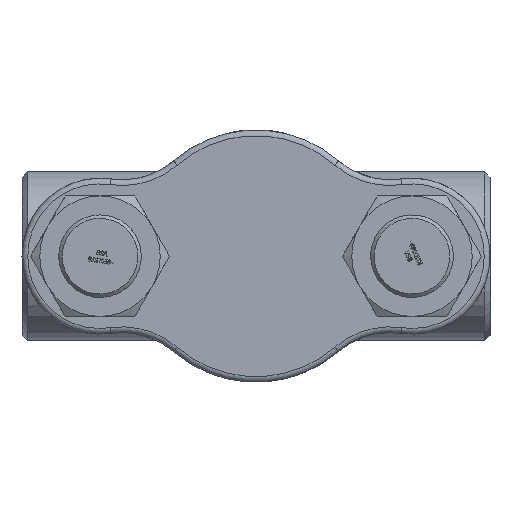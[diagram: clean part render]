
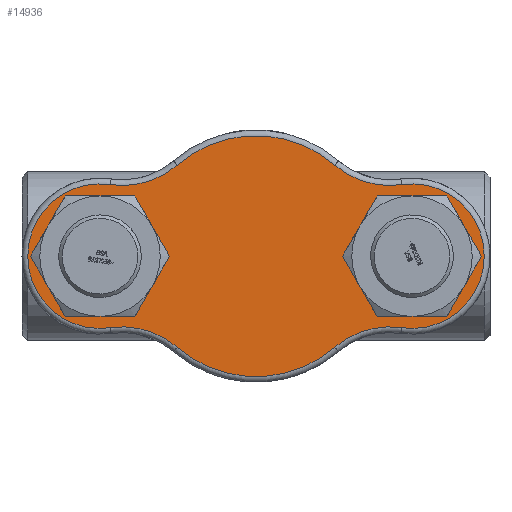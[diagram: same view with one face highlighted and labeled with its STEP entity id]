
A CAD part, front view. The second image highlights one B-rep face of the part: STEP entity #14936.
In plain terms, the highlighted planar face has unit normal (0, -1, 0) as drawn and (0, 0, -1) by its records, which use the part's own axes.
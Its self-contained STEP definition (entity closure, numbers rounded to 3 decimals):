
#3903=PLANE('',#15909);
#4265=FACE_BOUND('',#5252,.T.);
#4266=FACE_BOUND('',#5253,.T.);
#4367=FACE_OUTER_BOUND('',#5251,.T.);
#5251=EDGE_LOOP('',(#10275,#10276,#10277,#10278,#10279,#10280,#10281,#10282));
#5252=EDGE_LOOP('',(#10283));
#5253=EDGE_LOOP('',(#10284));
#6235=CIRCLE('',#15908,42.5);
#6236=CIRCLE('',#15910,63.);
#6237=CIRCLE('',#15911,73.);
#6238=CIRCLE('',#15912,105.);
#6239=CIRCLE('',#15913,73.);
#6240=CIRCLE('',#15914,63.);
#6241=CIRCLE('',#15915,73.);
#6242=CIRCLE('',#15916,105.);
#6243=CIRCLE('',#15917,73.);
#6244=CIRCLE('',#15918,42.5);
#6415=VERTEX_POINT('',#19138);
#6416=VERTEX_POINT('',#19141);
#6417=VERTEX_POINT('',#19142);
#6418=VERTEX_POINT('',#19144);
#6419=VERTEX_POINT('',#19146);
#6420=VERTEX_POINT('',#19148);
#6421=VERTEX_POINT('',#19150);
#6422=VERTEX_POINT('',#19152);
#6423=VERTEX_POINT('',#19154);
#6424=VERTEX_POINT('',#19157);
#7953=EDGE_CURVE('',#6415,#6415,#6235,.T.);
#7954=EDGE_CURVE('',#6416,#6417,#6236,.T.);
#7955=EDGE_CURVE('',#6418,#6416,#6237,.T.);
#7956=EDGE_CURVE('',#6419,#6418,#6238,.T.);
#7957=EDGE_CURVE('',#6420,#6419,#6239,.T.);
#7958=EDGE_CURVE('',#6421,#6420,#6240,.T.);
#7959=EDGE_CURVE('',#6422,#6421,#6241,.T.);
#7960=EDGE_CURVE('',#6423,#6422,#6242,.T.);
#7961=EDGE_CURVE('',#6417,#6423,#6243,.T.);
#7962=EDGE_CURVE('',#6424,#6424,#6244,.T.);
#10275=ORIENTED_EDGE('',*,*,#7954,.F.);
#10276=ORIENTED_EDGE('',*,*,#7955,.F.);
#10277=ORIENTED_EDGE('',*,*,#7956,.F.);
#10278=ORIENTED_EDGE('',*,*,#7957,.F.);
#10279=ORIENTED_EDGE('',*,*,#7958,.F.);
#10280=ORIENTED_EDGE('',*,*,#7959,.F.);
#10281=ORIENTED_EDGE('',*,*,#7960,.F.);
#10282=ORIENTED_EDGE('',*,*,#7961,.F.);
#10283=ORIENTED_EDGE('',*,*,#7962,.F.);
#10284=ORIENTED_EDGE('',*,*,#7953,.F.);
#14936=ADVANCED_FACE('',(#4367,#4265,#4266),#3903,.F.);
#15908=AXIS2_PLACEMENT_3D('',#19139,#16588,#16589);
#15909=AXIS2_PLACEMENT_3D('',#19140,#16590,#16591);
#15910=AXIS2_PLACEMENT_3D('',#19143,#16592,#16593);
#15911=AXIS2_PLACEMENT_3D('',#19145,#16594,#16595);
#15912=AXIS2_PLACEMENT_3D('',#19147,#16596,#16597);
#15913=AXIS2_PLACEMENT_3D('',#19149,#16598,#16599);
#15914=AXIS2_PLACEMENT_3D('',#19151,#16600,#16601);
#15915=AXIS2_PLACEMENT_3D('',#19153,#16602,#16603);
#15916=AXIS2_PLACEMENT_3D('',#19155,#16604,#16605);
#15917=AXIS2_PLACEMENT_3D('',#19156,#16606,#16607);
#15918=AXIS2_PLACEMENT_3D('',#19158,#16608,#16609);
#16588=DIRECTION('center_axis',(0.,0.,-1.));
#16589=DIRECTION('ref_axis',(1.,0.,0.));
#16590=DIRECTION('center_axis',(0.,0.,1.));
#16591=DIRECTION('ref_axis',(1.,0.,0.));
#16592=DIRECTION('center_axis',(0.,0.,1.));
#16593=DIRECTION('ref_axis',(-1.,0.,0.));
#16594=DIRECTION('center_axis',(0.,0.,-1.));
#16595=DIRECTION('ref_axis',(0.281,-0.96,0.));
#16596=DIRECTION('center_axis',(0.,0.,1.));
#16597=DIRECTION('ref_axis',(0.,1.,0.));
#16598=DIRECTION('center_axis',(0.,0.,-1.));
#16599=DIRECTION('ref_axis',(-0.281,-0.96,0.));
#16600=DIRECTION('center_axis',(0.,0.,1.));
#16601=DIRECTION('ref_axis',(1.,0.,0.));
#16602=DIRECTION('center_axis',(0.,0.,-1.));
#16603=DIRECTION('ref_axis',(-0.281,0.96,0.));
#16604=DIRECTION('center_axis',(0.,0.,1.));
#16605=DIRECTION('ref_axis',(0.,-1.,0.));
#16606=DIRECTION('center_axis',(0.,0.,-1.));
#16607=DIRECTION('ref_axis',(0.281,0.96,0.));
#16608=DIRECTION('center_axis',(0.,0.,-1.));
#16609=DIRECTION('ref_axis',(1.,0.,0.));
#19138=CARTESIAN_POINT('',(93.5,0.,0.));
#19139=CARTESIAN_POINT('Origin',(136.,0.,0.));
#19140=CARTESIAN_POINT('Origin',(0.,0.,0.));
#19141=CARTESIAN_POINT('',(-126.96,62.348,0.));
#19142=CARTESIAN_POINT('',(-126.96,-62.348,0.));
#19143=CARTESIAN_POINT('Origin',(-136.,0.,0.));
#19144=CARTESIAN_POINT('',(-68.713,79.395,0.));
#19145=CARTESIAN_POINT('Origin',(-116.485,134.593,0.));
#19146=CARTESIAN_POINT('',(68.713,79.395,0.));
#19147=CARTESIAN_POINT('Origin',(0.,0.,0.));
#19148=CARTESIAN_POINT('',(126.96,62.348,0.));
#19149=CARTESIAN_POINT('Origin',(116.485,134.593,0.));
#19150=CARTESIAN_POINT('',(126.96,-62.348,0.));
#19151=CARTESIAN_POINT('Origin',(136.,0.,0.));
#19152=CARTESIAN_POINT('',(68.713,-79.395,0.));
#19153=CARTESIAN_POINT('Origin',(116.485,-134.593,0.));
#19154=CARTESIAN_POINT('',(-68.713,-79.395,0.));
#19155=CARTESIAN_POINT('Origin',(0.,0.,0.));
#19156=CARTESIAN_POINT('Origin',(-116.485,-134.593,0.));
#19157=CARTESIAN_POINT('',(-178.5,0.,0.));
#19158=CARTESIAN_POINT('Origin',(-136.,0.,0.));
